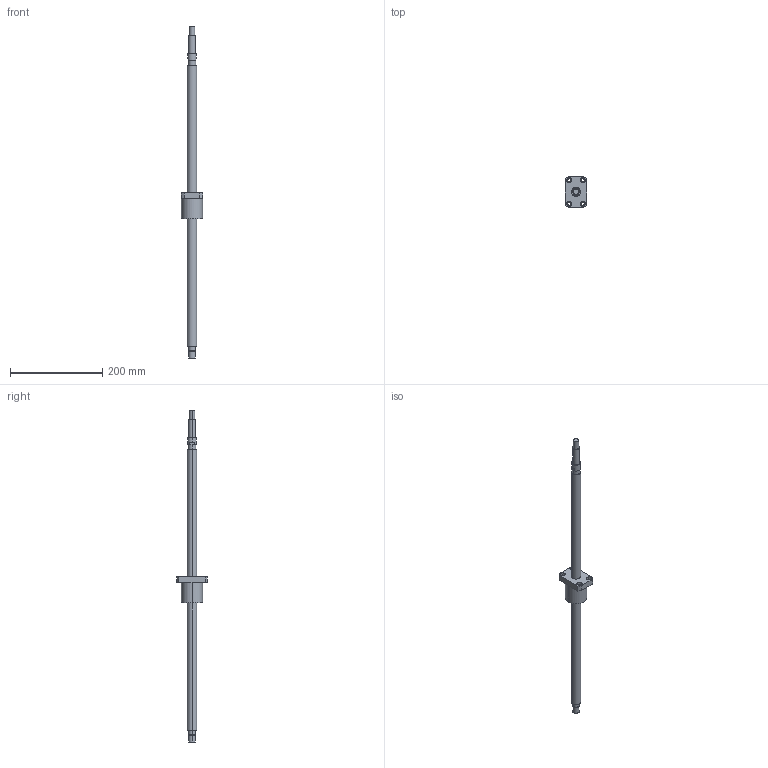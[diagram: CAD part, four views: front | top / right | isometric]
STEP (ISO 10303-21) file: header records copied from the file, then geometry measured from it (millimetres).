
FILE_DESCRIPTION((''),'2;1');
FILE_NAME('R20-20K2-FSC-610-720','2008-04-03T',('wcwu'),(''),'PRO/ENGINEER BY PARAMETRIC TECHNOLOGY CORPORATION, 2005070','PRO/ENGINEER BY PARAMETRIC TECHNOLOGY CORPORATION, 2005070','');
FILE_SCHEMA(('CONFIG_CONTROL_DESIGN'));
Length unit declared in the file: millimetre
Products named in the file (1): R20-20K2-FSC-610-720
Bounding box: 46 x 66 x 720 mm (x, y, z)
Volume: 302622.5 mm3; surface area: 56461.6 mm2
Topology: 1 solids, 1 shells, 65 faces, 146 edges, 96 vertices
Faces by surface type: cylinder 40, plane 25
Entity records: 1906 total; most frequent: DIRECTION 360, CARTESIAN_POINT 307, ORIENTED_EDGE 292, AXIS2_PLACEMENT_3D 149, EDGE_CURVE 146, VERTEX_POINT 96, EDGE_LOOP 86, CIRCLE 84
